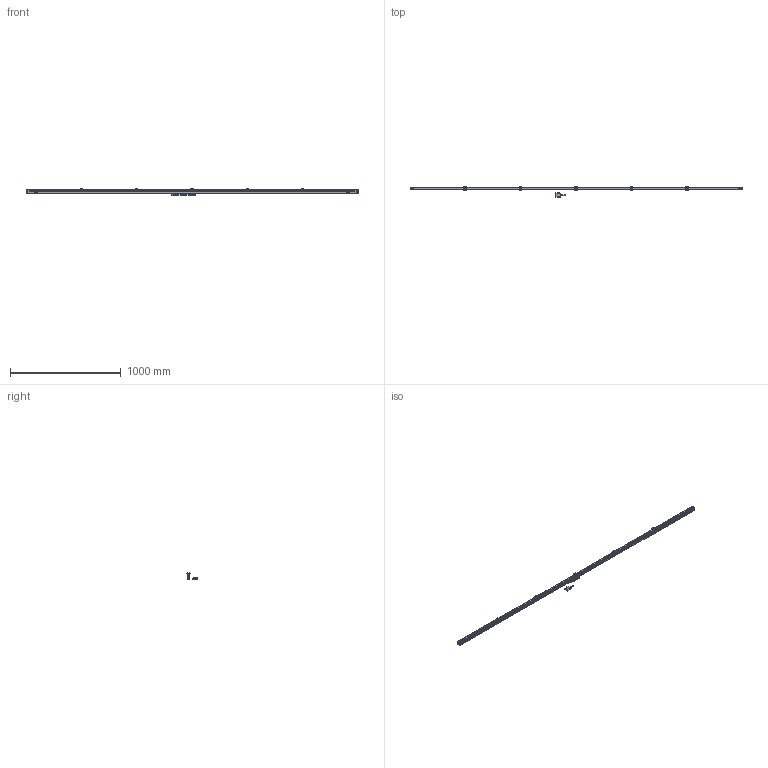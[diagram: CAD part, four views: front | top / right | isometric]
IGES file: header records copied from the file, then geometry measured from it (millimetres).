
Start section: Elysium IGES Interface
Global section: file name: 89H\\Utsu119s\kiyo_cad\data\3D\AT715\HP掲載用_201710\ﾓﾃﾞﾙ修正後_IGES\AT715-2800_営業送付.igs; native system: Creo Elements/Direct Modeling 18.1B  29-Sep-2012; preprocessor: Creo Element/Direct IGES_3D V2.2; author: Unknown; organization: Unknown; date: 20181220.145933; units: millimetre
Bounding box: 2998 x 99 x 68.35 mm (x, y, z)
Volume: 6421038 mm3; surface area: 1322989.6 mm2
Topology: 5 solids, 10 shells, 2595 faces, 6748 edges, 4221 vertices
Faces by surface type: bspline 2595
